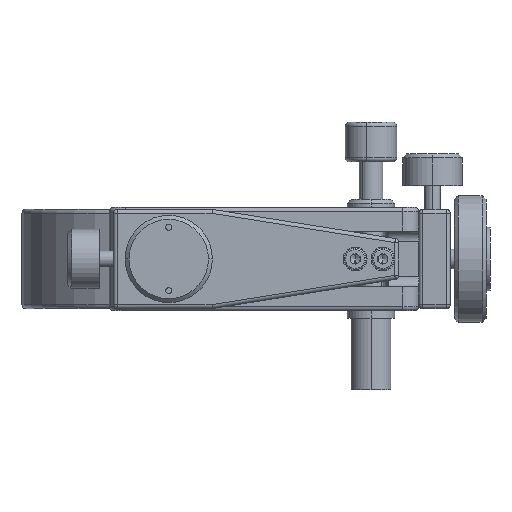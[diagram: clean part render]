
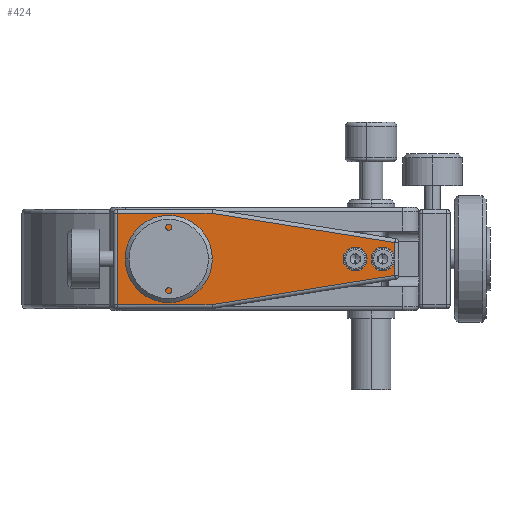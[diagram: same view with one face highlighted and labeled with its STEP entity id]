
A CAD part, left-side view. The second image highlights one B-rep face of the part: STEP entity #424.
In plain terms, the highlighted planar face has unit normal (-1, 0, 0).
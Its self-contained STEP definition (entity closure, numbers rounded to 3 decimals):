
#311 = DIRECTION ( 'NONE',  ( -1., 0., 0. ) ) ;
#424 = ADVANCED_FACE ( 'NONE', ( #4594, #9578, #2353 ), #4445, .T. ) ;
#614 = ORIENTED_EDGE ( 'NONE', *, *, #3111, .T. ) ;
#694 = EDGE_CURVE ( 'NONE', #11953, #4593, #11967, .T. ) ;
#805 = VECTOR ( 'NONE', #4947, 1000. ) ;
#1174 = CARTESIAN_POINT ( 'NONE',  ( -66., 13.079, 1.5 ) ) ;
#1335 = EDGE_LOOP ( 'NONE', ( #4691, #10338 ) ) ;
#1360 = DIRECTION ( 'NONE',  ( -1., 0., 0. ) ) ;
#1418 = DIRECTION ( 'NONE',  ( -1., 0., 0. ) ) ;
#1450 = DIRECTION ( 'NONE',  ( 0., 0., 1. ) ) ;
#1525 = LINE ( 'NONE', #8129, #1831 ) ;
#1539 = CARTESIAN_POINT ( 'NONE',  ( -66., -23., 16. ) ) ;
#1621 = DIRECTION ( 'NONE',  ( 0., 1., 0. ) ) ;
#1661 = VECTOR ( 'NONE', #1963, 1000. ) ;
#1692 = EDGE_CURVE ( 'NONE', #6469, #4548, #6385, .T. ) ;
#1831 = VECTOR ( 'NONE', #1621, 1000. ) ;
#1963 = DIRECTION ( 'NONE',  ( 0., 0., 1. ) ) ;
#2197 = DIRECTION ( 'NONE',  ( 1., 0., 0. ) ) ;
#2219 = CARTESIAN_POINT ( 'NONE',  ( -66., 13.158, 24.512 ) ) ;
#2300 = CARTESIAN_POINT ( 'NONE',  ( -66., -23., 13. ) ) ;
#2353 = FACE_BOUND ( 'NONE', #3091, .T. ) ;
#2445 = LINE ( 'NONE', #2219, #9382 ) ;
#2483 = ORIENTED_EDGE ( 'NONE', *, *, #1692, .F. ) ;
#2592 = CIRCLE ( 'NONE', #3979, 3. ) ;
#2692 = CARTESIAN_POINT ( 'NONE',  ( -66., 24., 19.5 ) ) ;
#2749 = ORIENTED_EDGE ( 'NONE', *, *, #4904, .T. ) ;
#2913 = CARTESIAN_POINT ( 'NONE',  ( -66., -23., 10. ) ) ;
#3024 = CARTESIAN_POINT ( 'NONE',  ( -66., -33., 13. ) ) ;
#3044 = DIRECTION ( 'NONE',  ( -1., 0., 0. ) ) ;
#3091 = EDGE_LOOP ( 'NONE', ( #614, #11354 ) ) ;
#3111 = EDGE_CURVE ( 'NONE', #4593, #11953, #10632, .T. ) ;
#3131 = CARTESIAN_POINT ( 'NONE',  ( -66., 13., 1.5 ) ) ;
#3267 = ORIENTED_EDGE ( 'NONE', *, *, #4788, .F. ) ;
#3289 = DIRECTION ( 'NONE',  ( 0., 0.988, 0.158 ) ) ;
#3311 = EDGE_CURVE ( 'NONE', #7748, #6488, #3331, .T. ) ;
#3331 = CIRCLE ( 'NONE', #8019, 3. ) ;
#3595 = AXIS2_PLACEMENT_3D ( 'NONE', #2300, #12206, #4300 ) ;
#3725 = CARTESIAN_POINT ( 'NONE',  ( -66., 37., 1.5 ) ) ;
#3844 = CARTESIAN_POINT ( 'NONE',  ( -66., -33., 17.147 ) ) ;
#3903 = VECTOR ( 'NONE', #4999, 1000. ) ;
#3920 = CARTESIAN_POINT ( 'NONE',  ( -66., 37., 1.5 ) ) ;
#3977 = ORIENTED_EDGE ( 'NONE', *, *, #11788, .T. ) ;
#3979 = AXIS2_PLACEMENT_3D ( 'NONE', #10243, #3044, #1450 ) ;
#4109 = ORIENTED_EDGE ( 'NONE', *, *, #10088, .F. ) ;
#4112 = CARTESIAN_POINT ( 'NONE',  ( -66., -33., 8.853 ) ) ;
#4144 = LINE ( 'NONE', #3844, #1661 ) ;
#4300 = DIRECTION ( 'NONE',  ( 0., 0., 1. ) ) ;
#4445 = PLANE ( 'NONE',  #5171 ) ;
#4548 = VERTEX_POINT ( 'NONE', #11554 ) ;
#4593 = VERTEX_POINT ( 'NONE', #2692 ) ;
#4594 = FACE_BOUND ( 'NONE', #1335, .T. ) ;
#4615 = DIRECTION ( 'NONE',  ( 1., 0., 0. ) ) ;
#4691 = ORIENTED_EDGE ( 'NONE', *, *, #4747, .F. ) ;
#4742 = VERTEX_POINT ( 'NONE', #3920 ) ;
#4747 = EDGE_CURVE ( 'NONE', #6488, #7748, #7881, .T. ) ;
#4788 = EDGE_CURVE ( 'NONE', #9412, #6469, #2592, .T. ) ;
#4827 = ORIENTED_EDGE ( 'NONE', *, *, #9043, .T. ) ;
#4904 = EDGE_CURVE ( 'NONE', #10570, #10361, #2445, .T. ) ;
#4947 = DIRECTION ( 'NONE',  ( 0., -0.988, 0.158 ) ) ;
#4999 = DIRECTION ( 'NONE',  ( 0., -1., 0. ) ) ;
#5171 = AXIS2_PLACEMENT_3D ( 'NONE', #6242, #11909, #10000 ) ;
#5429 = EDGE_CURVE ( 'NONE', #6469, #10570, #6566, .T. ) ;
#5507 = CARTESIAN_POINT ( 'NONE',  ( -66., -30., 10. ) ) ;
#5657 = DIRECTION ( 'NONE',  ( 0., 0., 1. ) ) ;
#5923 = CARTESIAN_POINT ( 'NONE',  ( -66., -30., 13. ) ) ;
#6070 = CARTESIAN_POINT ( 'NONE',  ( -66., -23., 13. ) ) ;
#6093 = EDGE_CURVE ( 'NONE', #4742, #9857, #11154, .T. ) ;
#6103 = AXIS2_PLACEMENT_3D ( 'NONE', #11586, #2197, #8631 ) ;
#6242 = CARTESIAN_POINT ( 'NONE',  ( -66., -34., 13. ) ) ;
#6243 = CIRCLE ( 'NONE', #12029, 3. ) ;
#6385 = CIRCLE ( 'NONE', #8472, 3. ) ;
#6469 = VERTEX_POINT ( 'NONE', #3024 ) ;
#6488 = VERTEX_POINT ( 'NONE', #1539 ) ;
#6566 = LINE ( 'NONE', #10168, #11319 ) ;
#7044 = CARTESIAN_POINT ( 'NONE',  ( -66., -30., 13. ) ) ;
#7528 = CARTESIAN_POINT ( 'NONE',  ( -66., 37., 24.5 ) ) ;
#7748 = VERTEX_POINT ( 'NONE', #2913 ) ;
#7881 = CIRCLE ( 'NONE', #3595, 3. ) ;
#7995 = DIRECTION ( 'NONE',  ( 0., 0., 1. ) ) ;
#8019 = AXIS2_PLACEMENT_3D ( 'NONE', #6070, #1360, #11734 ) ;
#8129 = CARTESIAN_POINT ( 'NONE',  ( -66., 37., 24.5 ) ) ;
#8472 = AXIS2_PLACEMENT_3D ( 'NONE', #5923, #311, #11350 ) ;
#8631 = DIRECTION ( 'NONE',  ( 0., 0., 1. ) ) ;
#9043 = EDGE_CURVE ( 'NONE', #9857, #11622, #10819, .T. ) ;
#9185 = VECTOR ( 'NONE', #11315, 1000. ) ;
#9294 = CARTESIAN_POINT ( 'NONE',  ( -66., -33., 8.853 ) ) ;
#9382 = VECTOR ( 'NONE', #3289, 1000. ) ;
#9412 = VERTEX_POINT ( 'NONE', #5507 ) ;
#9503 = CARTESIAN_POINT ( 'NONE',  ( -66., 13.079, 24.5 ) ) ;
#9574 = EDGE_LOOP ( 'NONE', ( #11496, #10580, #4827, #3977, #3267, #4109, #2483, #10192, #2749, #9907 ) ) ;
#9578 = FACE_OUTER_BOUND ( 'NONE', #9574, .T. ) ;
#9857 = VERTEX_POINT ( 'NONE', #1174 ) ;
#9907 = ORIENTED_EDGE ( 'NONE', *, *, #10556, .T. ) ;
#10000 = DIRECTION ( 'NONE',  ( 0., 0., 1. ) ) ;
#10088 = EDGE_CURVE ( 'NONE', #4548, #9412, #6243, .T. ) ;
#10168 = CARTESIAN_POINT ( 'NONE',  ( -66., -33., 17.147 ) ) ;
#10192 = ORIENTED_EDGE ( 'NONE', *, *, #5429, .T. ) ;
#10216 = CARTESIAN_POINT ( 'NONE',  ( -66., 24., 13. ) ) ;
#10243 = CARTESIAN_POINT ( 'NONE',  ( -66., -30., 13. ) ) ;
#10314 = EDGE_CURVE ( 'NONE', #11604, #4742, #11715, .T. ) ;
#10316 = AXIS2_PLACEMENT_3D ( 'NONE', #10216, #4615, #11208 ) ;
#10338 = ORIENTED_EDGE ( 'NONE', *, *, #3311, .F. ) ;
#10361 = VERTEX_POINT ( 'NONE', #9503 ) ;
#10374 = CARTESIAN_POINT ( 'NONE',  ( -66., 24., 6.5 ) ) ;
#10556 = EDGE_CURVE ( 'NONE', #10361, #11604, #1525, .T. ) ;
#10570 = VERTEX_POINT ( 'NONE', #10946 ) ;
#10580 = ORIENTED_EDGE ( 'NONE', *, *, #6093, .T. ) ;
#10632 = CIRCLE ( 'NONE', #10316, 6.5 ) ;
#10819 = LINE ( 'NONE', #4112, #805 ) ;
#10946 = CARTESIAN_POINT ( 'NONE',  ( -66., -33., 17.147 ) ) ;
#11154 = LINE ( 'NONE', #3131, #3903 ) ;
#11208 = DIRECTION ( 'NONE',  ( 0., 0., 1. ) ) ;
#11315 = DIRECTION ( 'NONE',  ( 0., 0., -1. ) ) ;
#11319 = VECTOR ( 'NONE', #5657, 1000. ) ;
#11350 = DIRECTION ( 'NONE',  ( 0., 0., 1. ) ) ;
#11354 = ORIENTED_EDGE ( 'NONE', *, *, #694, .T. ) ;
#11496 = ORIENTED_EDGE ( 'NONE', *, *, #10314, .T. ) ;
#11554 = CARTESIAN_POINT ( 'NONE',  ( -66., -30., 16. ) ) ;
#11586 = CARTESIAN_POINT ( 'NONE',  ( -66., 24., 13. ) ) ;
#11604 = VERTEX_POINT ( 'NONE', #7528 ) ;
#11622 = VERTEX_POINT ( 'NONE', #9294 ) ;
#11715 = LINE ( 'NONE', #3725, #9185 ) ;
#11734 = DIRECTION ( 'NONE',  ( 0., 0., 1. ) ) ;
#11788 = EDGE_CURVE ( 'NONE', #11622, #6469, #4144, .T. ) ;
#11909 = DIRECTION ( 'NONE',  ( -1., 0., 0. ) ) ;
#11953 = VERTEX_POINT ( 'NONE', #10374 ) ;
#11967 = CIRCLE ( 'NONE', #6103, 6.5 ) ;
#12029 = AXIS2_PLACEMENT_3D ( 'NONE', #7044, #1418, #7995 ) ;
#12206 = DIRECTION ( 'NONE',  ( -1., 0., 0. ) ) ;
